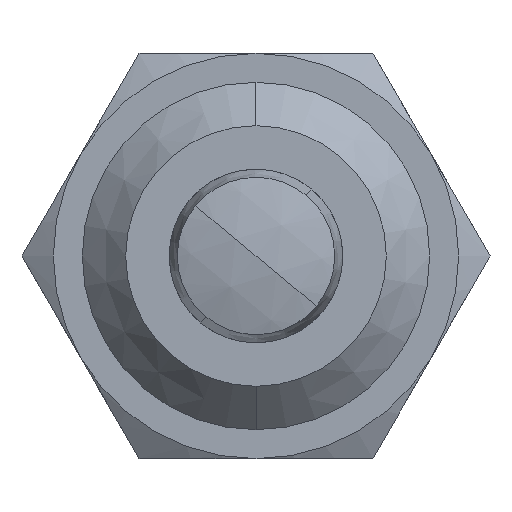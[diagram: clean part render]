
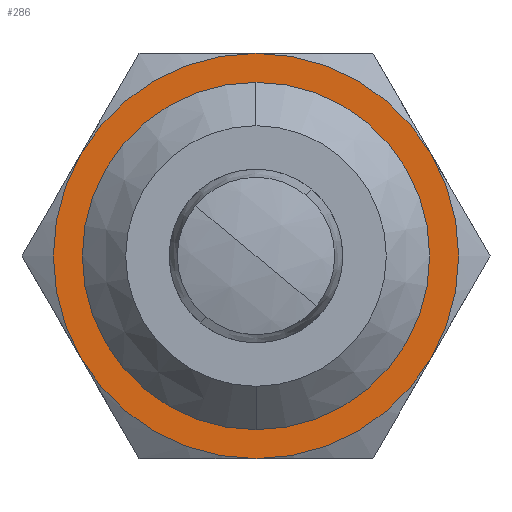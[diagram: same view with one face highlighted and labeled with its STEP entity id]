
A CAD part, front view. The second image highlights one B-rep face of the part: STEP entity #286.
In plain terms, the highlighted planar face has unit normal (0, -1, 0).
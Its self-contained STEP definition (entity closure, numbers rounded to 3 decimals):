
#242 = VERTEX_POINT ( 'NONE', #2014 ) ;
#243 = ORIENTED_EDGE ( 'NONE', *, *, #250, .T. ) ;
#244 = VERTEX_POINT ( 'NONE', #2011 ) ;
#245 = EDGE_CURVE ( 'NONE', #244, #303, #2009, .T. ) ;
#250 = EDGE_CURVE ( 'NONE', #244, #242, #2003, .T. ) ;
#262 = ORIENTED_EDGE ( 'NONE', *, *, #349, .F. ) ;
#270 = ORIENTED_EDGE ( 'NONE', *, *, #366, .T. ) ;
#274 = EDGE_LOOP ( 'NONE', ( #270, #336 ) ) ;
#286 = ADVANCED_FACE ( 'NONE', ( #2118, #2117 ), #2116, .F. ) ;
#295 = ORIENTED_EDGE ( 'NONE', *, *, #317, .F. ) ;
#296 = VERTEX_POINT ( 'NONE', #2103 ) ;
#298 = VERTEX_POINT ( 'NONE', #2095 ) ;
#299 = ORIENTED_EDGE ( 'NONE', *, *, #300, .F. ) ;
#300 = EDGE_CURVE ( 'NONE', #303, #298, #2158, .T. ) ;
#303 = VERTEX_POINT ( 'NONE', #2148 ) ;
#304 = ORIENTED_EDGE ( 'NONE', *, *, #245, .F. ) ;
#305 = VERTEX_POINT ( 'NONE', #2147 ) ;
#317 = EDGE_CURVE ( 'NONE', #298, #305, #2133, .T. ) ;
#325 = ORIENTED_EDGE ( 'NONE', *, *, #327, .F. ) ;
#326 = EDGE_LOOP ( 'NONE', ( #325, #295, #299, #304, #243, #262 ) ) ;
#327 = EDGE_CURVE ( 'NONE', #305, #296, #2168, .T. ) ;
#334 = EDGE_CURVE ( 'NONE', #368, #363, #2217, .T. ) ;
#336 = ORIENTED_EDGE ( 'NONE', *, *, #334, .T. ) ;
#349 = EDGE_CURVE ( 'NONE', #296, #242, #2252, .T. ) ;
#363 = VERTEX_POINT ( 'NONE', #2228 ) ;
#366 = EDGE_CURVE ( 'NONE', #363, #368, #2279, .T. ) ;
#368 = VERTEX_POINT ( 'NONE', #2274 ) ;
#2003 = CIRCLE ( 'NONE', #2054, 7. ) ;
#2005 = DIRECTION ( 'NONE',  ( 0., 0., 1. ) ) ;
#2006 = DIRECTION ( 'NONE',  ( 0., 1., 0. ) ) ;
#2007 = CARTESIAN_POINT ( 'NONE',  ( 0., 0., 0. ) ) ;
#2008 = AXIS2_PLACEMENT_3D ( 'NONE', #2007, #2006, #2005 ) ;
#2009 = CIRCLE ( 'NONE', #2008, 7. ) ;
#2011 = CARTESIAN_POINT ( 'NONE',  ( 0., 0., -7. ) ) ;
#2014 = CARTESIAN_POINT ( 'NONE',  ( 6.062, 0., -3.5 ) ) ;
#2051 = DIRECTION ( 'NONE',  ( 0., 0., -1. ) ) ;
#2052 = DIRECTION ( 'NONE',  ( 0., -1., 0. ) ) ;
#2053 = CARTESIAN_POINT ( 'NONE',  ( 0., 0., 0. ) ) ;
#2054 = AXIS2_PLACEMENT_3D ( 'NONE', #2053, #2052, #2051 ) ;
#2095 = CARTESIAN_POINT ( 'NONE',  ( -6.062, 0., 3.5 ) ) ;
#2103 = CARTESIAN_POINT ( 'NONE',  ( 6.062, 0., 3.5 ) ) ;
#2111 = DIRECTION ( 'NONE',  ( 0., 0., 1. ) ) ;
#2112 = DIRECTION ( 'NONE',  ( 0., 1., 0. ) ) ;
#2114 = CARTESIAN_POINT ( 'NONE',  ( 4.041, 0., -7. ) ) ;
#2115 = AXIS2_PLACEMENT_3D ( 'NONE', #2114, #2112, #2111 ) ;
#2116 = PLANE ( 'NONE',  #2115 ) ;
#2117 = FACE_OUTER_BOUND ( 'NONE', #326, .T. ) ;
#2118 = FACE_BOUND ( 'NONE', #274, .T. ) ;
#2129 = DIRECTION ( 'NONE',  ( 0., 0., 1. ) ) ;
#2130 = DIRECTION ( 'NONE',  ( 0., 1., 0. ) ) ;
#2131 = CARTESIAN_POINT ( 'NONE',  ( 0., 0., 0. ) ) ;
#2132 = AXIS2_PLACEMENT_3D ( 'NONE', #2131, #2130, #2129 ) ;
#2133 = CIRCLE ( 'NONE', #2132, 7. ) ;
#2147 = CARTESIAN_POINT ( 'NONE',  ( 0., 0., 7. ) ) ;
#2148 = CARTESIAN_POINT ( 'NONE',  ( -6.062, 0., -3.5 ) ) ;
#2154 = DIRECTION ( 'NONE',  ( 0., 0., 1. ) ) ;
#2155 = DIRECTION ( 'NONE',  ( 0., 1., 0. ) ) ;
#2156 = CARTESIAN_POINT ( 'NONE',  ( 0., 0., 0. ) ) ;
#2157 = AXIS2_PLACEMENT_3D ( 'NONE', #2156, #2155, #2154 ) ;
#2158 = CIRCLE ( 'NONE', #2157, 7. ) ;
#2164 = DIRECTION ( 'NONE',  ( 0., 0., 1. ) ) ;
#2165 = DIRECTION ( 'NONE',  ( 0., 1., 0. ) ) ;
#2166 = CARTESIAN_POINT ( 'NONE',  ( 0., 0., 0. ) ) ;
#2167 = AXIS2_PLACEMENT_3D ( 'NONE', #2166, #2165, #2164 ) ;
#2168 = CIRCLE ( 'NONE', #2167, 7. ) ;
#2213 = DIRECTION ( 'NONE',  ( 0., 0., 1. ) ) ;
#2214 = DIRECTION ( 'NONE',  ( 0., 1., 0. ) ) ;
#2215 = CARTESIAN_POINT ( 'NONE',  ( 0., 0., 0. ) ) ;
#2216 = AXIS2_PLACEMENT_3D ( 'NONE', #2215, #2214, #2213 ) ;
#2217 = CIRCLE ( 'NONE', #2216, 6. ) ;
#2228 = CARTESIAN_POINT ( 'NONE',  ( 0., 0., 6. ) ) ;
#2243 = DIRECTION ( 'NONE',  ( 0., 0., 1. ) ) ;
#2244 = DIRECTION ( 'NONE',  ( 0., 1., 0. ) ) ;
#2245 = CARTESIAN_POINT ( 'NONE',  ( 0., 0., 0. ) ) ;
#2246 = AXIS2_PLACEMENT_3D ( 'NONE', #2245, #2244, #2243 ) ;
#2252 = CIRCLE ( 'NONE', #2246, 7. ) ;
#2274 = CARTESIAN_POINT ( 'NONE',  ( 0., 0., -6. ) ) ;
#2275 = DIRECTION ( 'NONE',  ( 0., 0., 1. ) ) ;
#2276 = DIRECTION ( 'NONE',  ( 0., 1., 0. ) ) ;
#2277 = CARTESIAN_POINT ( 'NONE',  ( 0., 0., 0. ) ) ;
#2278 = AXIS2_PLACEMENT_3D ( 'NONE', #2277, #2276, #2275 ) ;
#2279 = CIRCLE ( 'NONE', #2278, 6. ) ;
